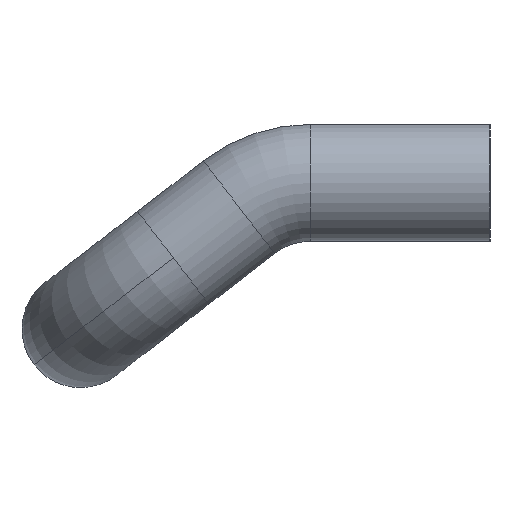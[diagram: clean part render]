
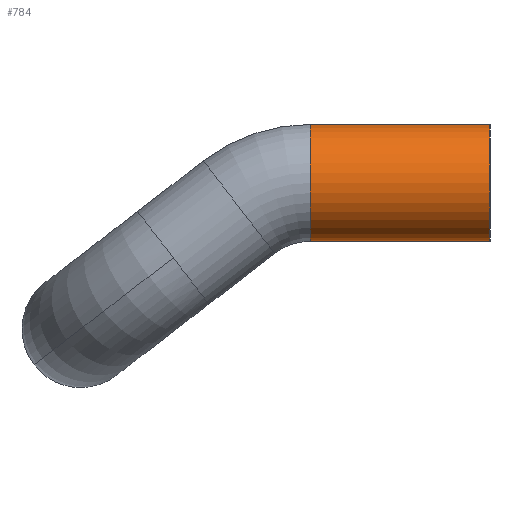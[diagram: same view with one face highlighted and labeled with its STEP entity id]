
A CAD part, left-side view. The second image highlights one B-rep face of the part: STEP entity #784.
In plain terms, the highlighted cylindrical face has radius 4 mm (diameter 8 mm), a partial arc.
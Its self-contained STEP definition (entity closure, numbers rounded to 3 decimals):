
#29 = AXIS2_PLACEMENT_3D ( 'NONE', #120, #185, #658 ) ;
#67 = ORIENTED_EDGE ( 'NONE', *, *, #838, .F. ) ;
#119 = ORIENTED_EDGE ( 'NONE', *, *, #212, .T. ) ;
#120 = CARTESIAN_POINT ( 'NONE',  ( -100., 0., 0. ) ) ;
#144 = CIRCLE ( 'NONE', #29, 4. ) ;
#154 = LINE ( 'NONE', #756, #172 ) ;
#163 = DIRECTION ( 'NONE',  ( 0., -1., 0. ) ) ;
#172 = VECTOR ( 'NONE', #488, 1000. ) ;
#185 = DIRECTION ( 'NONE',  ( 0., -1., 0. ) ) ;
#209 = VECTOR ( 'NONE', #163, 1000. ) ;
#212 = EDGE_CURVE ( 'NONE', #274, #304, #154, .T. ) ;
#227 = CARTESIAN_POINT ( 'NONE',  ( -100., 12.279, 0. ) ) ;
#236 = FACE_OUTER_BOUND ( 'NONE', #834, .T. ) ;
#274 = VERTEX_POINT ( 'NONE', #813 ) ;
#304 = VERTEX_POINT ( 'NONE', #747 ) ;
#361 = VERTEX_POINT ( 'NONE', #378 ) ;
#378 = CARTESIAN_POINT ( 'NONE',  ( -100., 12.279, 4. ) ) ;
#388 = CARTESIAN_POINT ( 'NONE',  ( -100., 12.279, 0. ) ) ;
#429 = DIRECTION ( 'NONE',  ( 0., 0., -1. ) ) ;
#488 = DIRECTION ( 'NONE',  ( 0., -1., 0. ) ) ;
#494 = CIRCLE ( 'NONE', #613, 4. ) ;
#509 = LINE ( 'NONE', #575, #209 ) ;
#542 = EDGE_CURVE ( 'NONE', #361, #274, #494, .T. ) ;
#562 = EDGE_CURVE ( 'NONE', #858, #304, #144, .T. ) ;
#575 = CARTESIAN_POINT ( 'NONE',  ( -100., 12.279, 4. ) ) ;
#613 = AXIS2_PLACEMENT_3D ( 'NONE', #388, #800, #664 ) ;
#658 = DIRECTION ( 'NONE',  ( 0., 0., 1. ) ) ;
#664 = DIRECTION ( 'NONE',  ( 0., 0., 1. ) ) ;
#675 = AXIS2_PLACEMENT_3D ( 'NONE', #227, #762, #429 ) ;
#739 = ORIENTED_EDGE ( 'NONE', *, *, #562, .F. ) ;
#747 = CARTESIAN_POINT ( 'NONE',  ( -100., 0., -4. ) ) ;
#756 = CARTESIAN_POINT ( 'NONE',  ( -100., 12.279, -4. ) ) ;
#762 = DIRECTION ( 'NONE',  ( 0., -1., 0. ) ) ;
#784 = ADVANCED_FACE ( 'NONE', ( #236 ), #831, .T. ) ;
#800 = DIRECTION ( 'NONE',  ( 0., -1., 0. ) ) ;
#813 = CARTESIAN_POINT ( 'NONE',  ( -100., 12.279, -4. ) ) ;
#831 = CYLINDRICAL_SURFACE ( 'NONE', #675, 4. ) ;
#834 = EDGE_LOOP ( 'NONE', ( #67, #848, #119, #739 ) ) ;
#838 = EDGE_CURVE ( 'NONE', #361, #858, #509, .T. ) ;
#841 = CARTESIAN_POINT ( 'NONE',  ( -100., 0., 4. ) ) ;
#848 = ORIENTED_EDGE ( 'NONE', *, *, #542, .T. ) ;
#858 = VERTEX_POINT ( 'NONE', #841 ) ;
